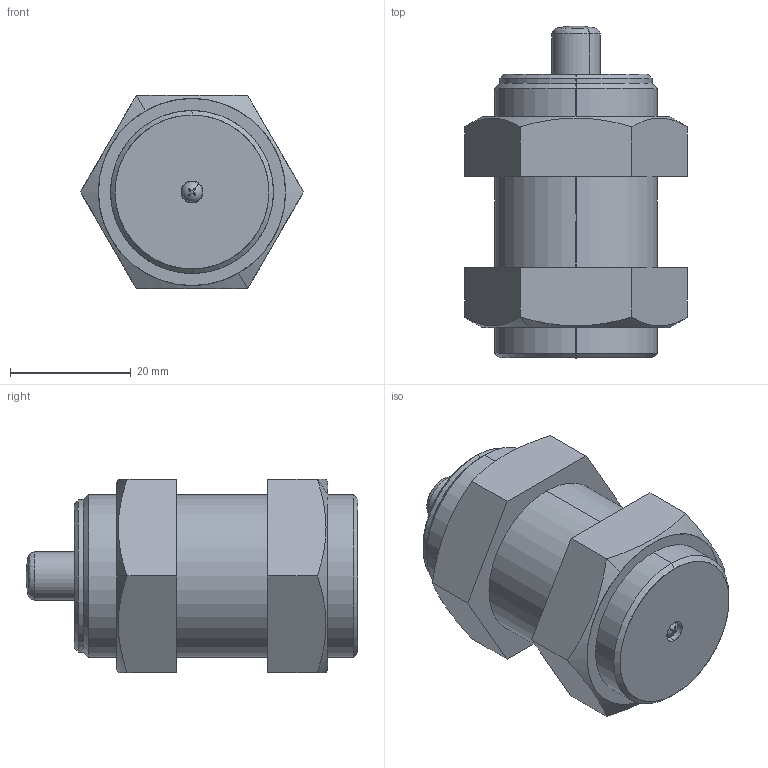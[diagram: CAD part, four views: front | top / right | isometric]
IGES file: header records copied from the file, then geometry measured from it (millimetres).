
Start section: SolidWorks IGES file using analytic representation for surfaces
Bounding box: 36.95 x 55 x 32 mm (x, y, z)
Surface area: 9170.2 mm2 (no closed solid volume)
Topology: 0 solids, 0 shells, 57 faces, 832 edges, 831 vertices
Faces by surface type: bspline 29, revolution 28
